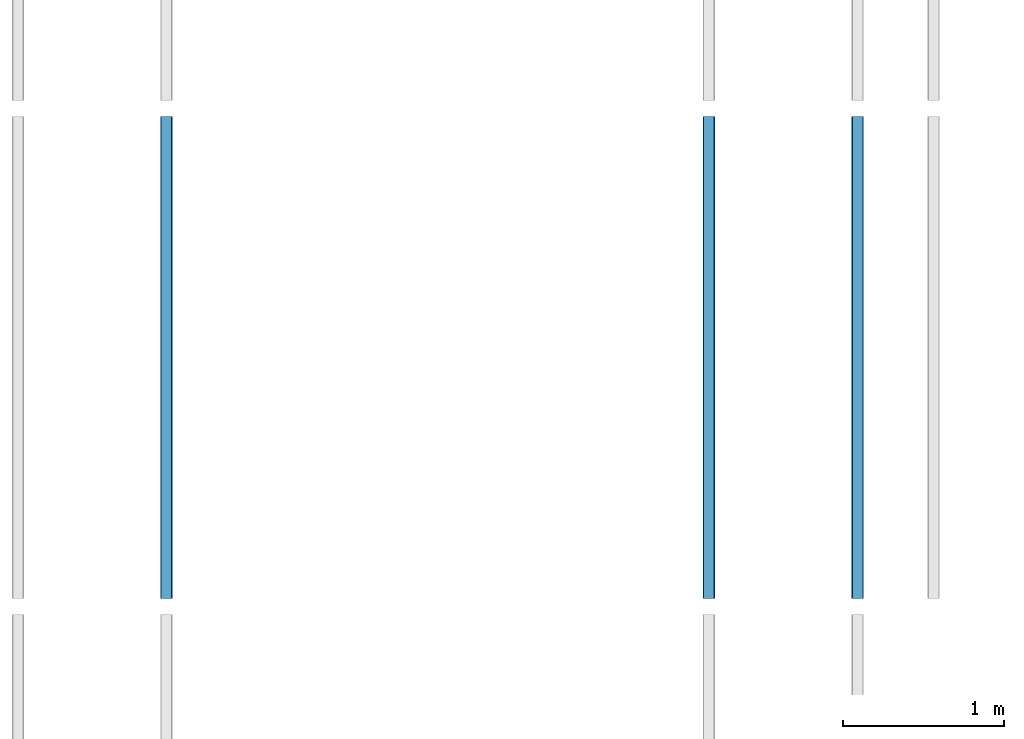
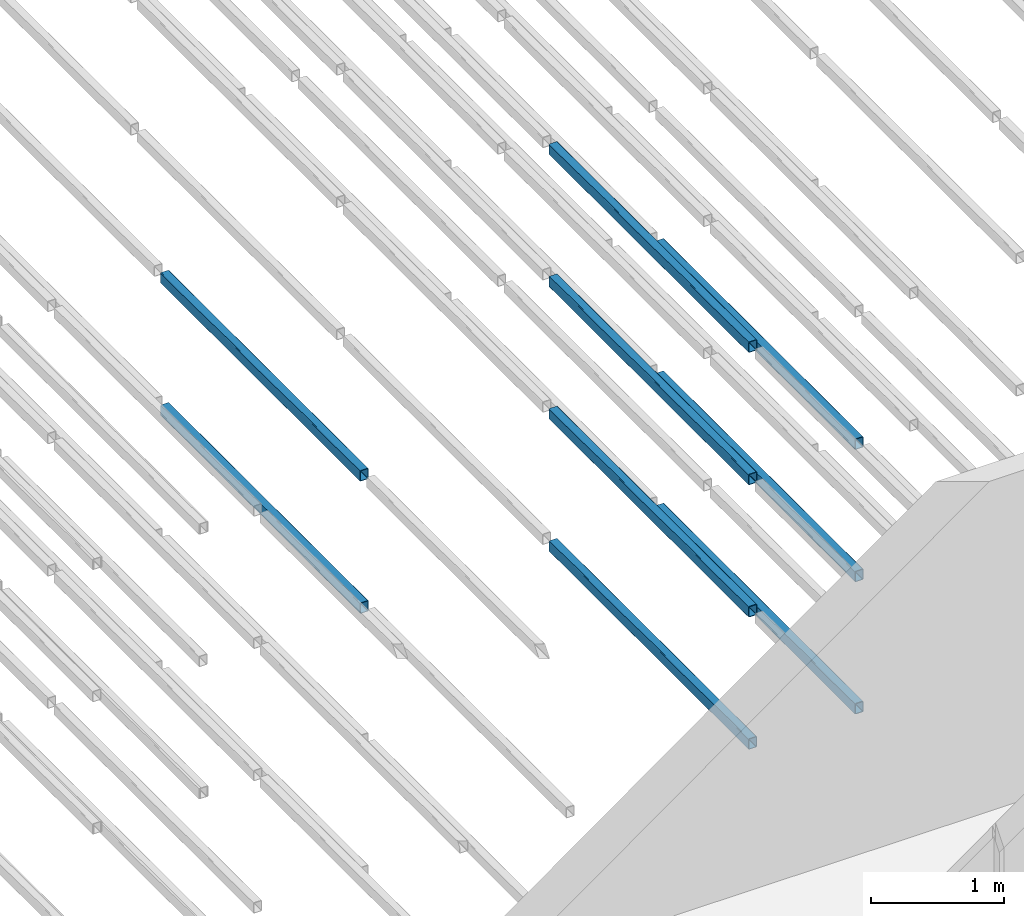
# One storey, part 22 of 290: 9 beams.
"""IFC2X3 building model written with IfcOpenShell, lengths in metres."""

import ifcopenshell
import ifcopenshell.guid

model = None  # the IFC model being written
_history = None  # IfcOwnerHistory: only IFC2X3 demands one
_inside = {}  # id of a spatial element -> (the spatial element, [elements in it])
_under = {}  # id of a project, library or spatial element -> (it, [spatial elements below it])
_declared = {}  # id of a project -> (the project, [libraries it declares])
_typed = {}  # id of a type object -> (the type object, [elements of that type])
_made_of = {}  # id of a material, layer set ... -> (it, [elements and type objects made of it])


def new_model(schema):
    """Start an empty IFC model of exactly this schema.

    Asked for "IFC4X3", IfcOpenShell would pick the latest addendum, in which some entities
    have other attributes; the version numbers below select the first issue.
    IFC2X3 requires an IfcOwnerHistory on every rooted entity: one is made here for all.
    """
    global model, _history
    if schema == "IFC4X3":
        model = ifcopenshell.file(schema_version=(4, 3, 0, 0))
    else:
        model = ifcopenshell.file(schema=schema)
    _inside.clear()
    _under.clear()
    _declared.clear()
    _typed.clear()
    _made_of.clear()
    _history = None
    if model.schema == "IFC2X3":
        org = make("IfcOrganization", Name="unknown")
        user = make(
            "IfcPersonAndOrganization",
            ThePerson=make("IfcPerson", FamilyName="unknown"),
            TheOrganization=org,
        )
        app = make(
            "IfcApplication",
            ApplicationDeveloper=org,
            Version="unknown",
            ApplicationFullName="unknown",
            ApplicationIdentifier="unknown",
        )
        _history = make(
            "IfcOwnerHistory",
            OwningUser=user,
            OwningApplication=app,
            ChangeAction="ADDED",
            CreationDate=0,
        )
    return model


def make(cls, **values):
    """One entity of the class cls with the attributes given. An attribute that is None is left unset."""
    return model.create_entity(
        cls, **{name: value for name, value in values.items() if value is not None}
    )


def entity(cls, *values):
    """Any entity or typed value of the class cls, its attributes in the order of the schema. None: left unset."""
    e = model.create_entity(cls)
    for i, value in enumerate(values):
        if value is not None:
            e[i] = value
    return e


def rooted(cls, **values):
    """An entity with a GlobalId (a new one), such as an element, a storey or a relation."""
    return make(cls, GlobalId=ifcopenshell.guid.new(), OwnerHistory=_history, **values)


def si_unit(unit_type, name, prefix=None):
    """IfcSIUnit, for example si_unit("LENGTHUNIT", "METRE", prefix="MILLI")."""
    return make("IfcSIUnit", UnitType=unit_type, Prefix=prefix, Name=name)


def converted_unit(unit_type, name, factor, base, dimensions=None, offset=None):
    """IfcConversionBasedUnit, such as the inch: factor (a typed value) times the base unit."""
    return make(
        "IfcConversionBasedUnit"
        if offset is None
        else "IfcConversionBasedUnitWithOffset",
        ConversionOffset=offset,
        Dimensions=None
        if dimensions is None
        else entity("IfcDimensionalExponents", *dimensions),
        UnitType=unit_type,
        Name=name,
        ConversionFactor=make(
            "IfcMeasureWithUnit", ValueComponent=factor, UnitComponent=base
        ),
    )


def derived_unit(unit_type, elements):
    """IfcDerivedUnit: a product of units, each with its exponent."""
    return make(
        "IfcDerivedUnit",
        Elements=[
            make("IfcDerivedUnitElement", Unit=unit, Exponent=power)
            for unit, power in elements
        ],
        UnitType=unit_type,
    )


def assignment(units):
    """IfcUnitAssignment: the units of a project."""
    return None if units is None else make("IfcUnitAssignment", Units=units)


def point(xyz):
    """IfcCartesianPoint."""
    return None if xyz is None else make("IfcCartesianPoint", Coordinates=xyz)


def direction(xyz):
    """IfcDirection."""
    return None if xyz is None else make("IfcDirection", DirectionRatios=xyz)


def frame(location, z_axis=None, x_axis=None):
    """IfcAxis2Placement3D, a coordinate frame: its origin and axes. An axis left out is left unset."""
    return make(
        "IfcAxis2Placement3D",
        Location=point(location),
        Axis=direction(z_axis),
        RefDirection=direction(x_axis),
    )


def frame_2d(location, x_axis=None):
    """IfcAxis2Placement2D, a coordinate frame in the plane: its origin and x axis."""
    return make(
        "IfcAxis2Placement2D", Location=point(location), RefDirection=direction(x_axis)
    )


def origin():
    """The frame at (0, 0, 0) with its axes left unset."""
    return frame((0.0, 0.0, 0.0))


def place(relative_to, where):
    """IfcLocalPlacement: puts the frame where relative to a parent placement (None: the world)."""
    return make(
        "IfcLocalPlacement", PlacementRelTo=relative_to, RelativePlacement=where
    )


def context(
    kind, dimensions, precision=None, world=None, true_north=None, identifier=None
):
    """IfcGeometricRepresentationContext, for example the 3D "Model" context."""
    return make(
        "IfcGeometricRepresentationContext",
        ContextIdentifier=identifier,
        ContextType=kind,
        CoordinateSpaceDimension=dimensions,
        Precision=precision,
        WorldCoordinateSystem=world,
        TrueNorth=true_north,
    )


def subcontext(parent, identifier, kind, view, scale=None):
    """IfcGeometricRepresentationSubContext, for example "Body" below "Model"."""
    return make(
        "IfcGeometricRepresentationSubContext",
        ContextIdentifier=identifier,
        ContextType=kind,
        ParentContext=parent,
        TargetScale=scale,
        TargetView=view,
    )


def project(units=None, contexts=None):
    """IfcProject with its units and contexts."""
    return rooted(
        "IfcProject",
        Name="project",
        RepresentationContexts=contexts,
        UnitsInContext=assignment(units),
    )


def spatial(cls, under=None, at=None, **own):
    """A site, building, storey or space (cls), placed at a placement, below another one or the project."""
    s = rooted(cls, ObjectPlacement=at, **own)
    if under is not None:
        _under.setdefault(under.id(), (under, []))[1].append(s)
    return s


def polyline(points):
    """IfcPolyline through the points."""
    return make("IfcPolyline", Points=[point(p) for p in points])


def circle_curve(where, radius):
    """IfcCircle in the frame where."""
    return make("IfcCircle", Position=where, Radius=radius)


def parameter(value):
    """IfcParameterValue: where a trimmed curve begins or ends, as a parameter of its basis curve."""
    return model.create_entity("IfcParameterValue", value)


def trimmed(basis, trim1, trim2, sense, master):
    """IfcTrimmedCurve: the piece of a basis curve between two trims."""
    return make(
        "IfcTrimmedCurve",
        BasisCurve=basis,
        Trim1=trim1,
        Trim2=trim2,
        SenseAgreement=sense,
        MasterRepresentation=master,
    )


def segment(curve, same_sense, transition):
    """IfcCompositeCurveSegment."""
    return make(
        "IfcCompositeCurveSegment",
        Transition=transition,
        SameSense=same_sense,
        ParentCurve=curve,
    )


def composite_curve(segments, self_intersect=None):
    """IfcCompositeCurve: segments joined end to end."""
    return make("IfcCompositeCurve", Segments=segments, SelfIntersect=self_intersect)


def outline(outer, holes=None, kind="AREA"):
    """IfcArbitraryClosedProfileDef: a profile drawn as a closed curve; with holes, ...WithVoids."""
    if holes is None:
        return make("IfcArbitraryClosedProfileDef", ProfileType=kind, OuterCurve=outer)
    return make(
        "IfcArbitraryProfileDefWithVoids",
        ProfileType=kind,
        OuterCurve=outer,
        InnerCurves=holes,
    )


def extrude(swept, where, along, depth):
    """IfcExtrudedAreaSolid: the profile swept, set in the frame where, extruded along a direction by depth."""
    return make(
        "IfcExtrudedAreaSolid",
        SweptArea=swept,
        Position=where,
        ExtrudedDirection=direction(along),
        Depth=depth,
    )


def shape(context_of_items, identifier, shape_type, items):
    """IfcShapeRepresentation: the items that make up one representation, for example the "Body"."""
    return make(
        "IfcShapeRepresentation",
        ContextOfItems=context_of_items,
        RepresentationIdentifier=identifier,
        RepresentationType=shape_type,
        Items=items,
    )


def material(Name=None, Category=None):
    """IfcMaterial."""
    return make("IfcMaterial", Name=Name, Category=Category)


def made_of(thing, what):
    """Note that an element or type object is made of a material, layer set ...; save() writes the relation."""
    if what is not None:
        _made_of.setdefault(what.id(), (what, []))[1].append(thing)
    return thing


def type_object(cls, material=None, **own):
    """A type object (cls), such as IfcWallType, which elements share."""
    return made_of(rooted(cls, **own), material)


def element(
    cls,
    number,
    at=None,
    inside=None,
    cuts=None,
    type_object=None,
    material=None,
    context=None,
    identifier="Body",
    shape_type=None,
    held_by="IfcProductDefinitionShape",
    body=None,
    shapes=None,
    **own,
):
    """One element of the class cls, such as IfcWall. Its Tag is "e" and its number.

    at: its placement. inside: the storey or other place that contains it. cuts: it is an
    opening in that element (IfcRelVoidsElement). A single representation is given by context,
    identifier, shape_type and body (its items); several are given by shapes. held_by: the class
    of the entity that holds the representations. save() writes the other relations.
    """
    e = rooted(cls, Tag="e%d" % number, ObjectPlacement=at, **own)
    if body is not None:
        shapes = [shape(context, identifier, shape_type, body)]
    if shapes is not None:
        e.Representation = make(held_by, Representations=shapes)
    if inside is not None:
        _inside.setdefault(inside.id(), (inside, []))[1].append(e)
    if cuts is not None:
        rooted(
            "IfcRelVoidsElement", RelatingBuildingElement=cuts, RelatedOpeningElement=e
        )
    if type_object is not None:
        _typed.setdefault(type_object.id(), (type_object, []))[1].append(e)
    return made_of(e, material)


def aggregate(whole, parts):
    """IfcRelAggregates: a whole, such as a stair, and the parts it consists of."""
    return rooted("IfcRelAggregates", RelatingObject=whole, RelatedObjects=parts)


def save(model, path):
    """Write the relations noted so far, then the file.

    IfcRelAggregates (storeys below a building ...), IfcRelContainedInSpatialStructure (elements
    in a storey), IfcRelDefinesByType, IfcRelAssociatesMaterial and IfcRelDeclares: one each for
    every whole, place, type object, material and project.
    """
    for whole, parts in _under.values():
        aggregate(whole, parts)
    for where, things in _inside.values():
        rooted(
            "IfcRelContainedInSpatialStructure",
            RelatedElements=things,
            RelatingStructure=where,
        )
    for kind, things in _typed.values():
        rooted("IfcRelDefinesByType", RelatedObjects=things, RelatingType=kind)
    for what, things in _made_of.values():
        rooted("IfcRelAssociatesMaterial", RelatedObjects=things, RelatingMaterial=what)
    for by, libraries in _declared.values():
        rooted("IfcRelDeclares", RelatingContext=by, RelatedDefinitions=libraries)
    model.write(path)


model = new_model("IFC2X3")

# Units and contexts
model_context = context("Model", 3, precision=1e-05, world=origin(), true_north=direction((6.12303176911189e-17, 1.0)))
body_context = subcontext(model_context, "Body", "Model", "MODEL_VIEW")
ifc_project = project(units=[si_unit("LENGTHUNIT", "METRE"), si_unit("AREAUNIT", "SQUARE_METRE"), si_unit("VOLUMEUNIT", "CUBIC_METRE"), converted_unit("PLANEANGLEUNIT", "DEGREE", entity("IfcRatioMeasure", 0.0174532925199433), si_unit("PLANEANGLEUNIT", "RADIAN"), dimensions=[0, 0, 0, 0, 0, 0, 0]), si_unit("MASSUNIT", "GRAM", prefix="KILO"), derived_unit("MASSDENSITYUNIT", [(si_unit("MASSUNIT", "GRAM", prefix="KILO"), 1), (si_unit("LENGTHUNIT", "METRE"), -3)]), derived_unit("MOMENTOFINERTIAUNIT", [(si_unit("LENGTHUNIT", "METRE"), 4)]), si_unit("TIMEUNIT", "SECOND"), si_unit("FREQUENCYUNIT", "HERTZ"), si_unit("THERMODYNAMICTEMPERATUREUNIT", "DEGREE_CELSIUS"), derived_unit("THERMALTRANSMITTANCEUNIT", [(si_unit("MASSUNIT", "GRAM", prefix="KILO"), 1), (si_unit("THERMODYNAMICTEMPERATUREUNIT", "KELVIN"), -1), (si_unit("TIMEUNIT", "SECOND"), -3)]), derived_unit("VOLUMETRICFLOWRATEUNIT", [(si_unit("LENGTHUNIT", "METRE"), 3), (si_unit("TIMEUNIT", "SECOND"), -1)]), si_unit("ELECTRICCURRENTUNIT", "AMPERE"), si_unit("ELECTRICVOLTAGEUNIT", "VOLT"), si_unit("POWERUNIT", "WATT"), si_unit("FORCEUNIT", "NEWTON", prefix="KILO"), si_unit("ILLUMINANCEUNIT", "LUX"), si_unit("LUMINOUSFLUXUNIT", "LUMEN"), si_unit("LUMINOUSINTENSITYUNIT", "CANDELA"), derived_unit("USERDEFINED", [(si_unit("MASSUNIT", "GRAM", prefix="KILO"), -1), (si_unit("LENGTHUNIT", "METRE"), -2), (si_unit("TIMEUNIT", "SECOND"), 3), (si_unit("LUMINOUSFLUXUNIT", "LUMEN"), 1)]), derived_unit("LINEARVELOCITYUNIT", [(si_unit("LENGTHUNIT", "METRE"), 1), (si_unit("TIMEUNIT", "SECOND"), -1)]), si_unit("PRESSUREUNIT", "PASCAL"), derived_unit("USERDEFINED", [(si_unit("LENGTHUNIT", "METRE"), -2), (si_unit("MASSUNIT", "GRAM", prefix="KILO"), 1), (si_unit("TIMEUNIT", "SECOND"), -2)]), derived_unit("LINEARFORCEUNIT", [(si_unit("MASSUNIT", "GRAM", prefix="KILO"), 1), (si_unit("LENGTHUNIT", "METRE"), 1), (si_unit("TIMEUNIT", "SECOND"), -2), (si_unit("LENGTHUNIT", "METRE"), -1)]), derived_unit("PLANARFORCEUNIT", [(si_unit("MASSUNIT", "GRAM", prefix="KILO"), 1), (si_unit("LENGTHUNIT", "METRE"), 1), (si_unit("TIMEUNIT", "SECOND"), -2), (si_unit("LENGTHUNIT", "METRE"), -2)])], contexts=[model_context])

# Site, building, storey
site_placement = place(None, origin())
site = spatial("IfcSite", under=ifc_project, at=site_placement, Name="Default", CompositionType="ELEMENT")
building_placement = place(site_placement, origin())
building = spatial("IfcBuilding", under=site, at=building_placement, CompositionType="ELEMENT")
storey_placement = place(building_placement, frame((0.0, 0.0, 4.0)))
storey = spatial("IfcBuildingStorey", under=building, at=storey_placement, Name="01_OG", CompositionType="ELEMENT", Elevation=4.0)

# Beams
ifc_material = material(Name="Metall - Baustahl S235 blau")
beam_type = type_object("IfcBeamType", Name="RHS Träger (EN 10219-2):RHS 100 x 75 x 5", PredefinedType="NOTDEFINED")
beam_1_placement = place(storey_placement, frame((-196.415111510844, 27.148088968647, -1.2), z_axis=(0.0, 0.0, 1.0), x_axis=(0.0, 1.0, 0.0)))
element("IfcBeam", 1, at=beam_1_placement, inside=storey, type_object=beam_type, material=ifc_material, Name="RHS Träger (EN 10219-2):RHS 100 x 75 x 5", ObjectType="RHS Träger (EN 10219-2):RHS 100 x 75 x 5", context=body_context, shape_type="SweptSolid", body=[
    extrude(outline(composite_curve([segment(trimmed(circle_curve(frame_2d((-0.0274999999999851, -0.0400000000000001), x_axis=(1.0, 0.0)), 0.01), [parameter(180.0)], [parameter(270.0)], True, "PARAMETER"), True, "CONTINUOUS"), segment(polyline([(-0.0274999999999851, -0.05), (0.0274999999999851, -0.05)]), True, "CONTINUOUS"), segment(trimmed(circle_curve(frame_2d((0.0274999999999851, -0.0400000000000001), x_axis=(1.0, 0.0)), 0.01), [parameter(270.0)], [parameter(5.08888749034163e-14)], True, "PARAMETER"), True, "CONTINUOUS"), segment(polyline([(0.0375000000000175, -0.0400000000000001), (0.0375000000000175, 0.0400000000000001)]), True, "CONTINUOUS"), segment(trimmed(circle_curve(frame_2d((0.0274999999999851, 0.0400000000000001), x_axis=(1.0, 0.0)), 0.01), [parameter(360.0)], [parameter(89.9999999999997)], True, "PARAMETER"), True, "CONTINUOUS"), segment(polyline([(0.0274999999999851, 0.05), (-0.0274999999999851, 0.05)]), True, "CONTINUOUS"), segment(trimmed(circle_curve(frame_2d((-0.0274999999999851, 0.0400000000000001), x_axis=(1.0, 0.0)), 0.01), [parameter(90.0000000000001)], [parameter(180.0)], True, "PARAMETER"), True, "CONTINUOUS"), segment(polyline([(-0.0374999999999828, 0.0400000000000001), (-0.0374999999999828, -0.0400000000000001)]), True, "CONTINUOUS")], self_intersect=False), holes=[composite_curve([segment(polyline([(0.0274999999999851, -0.0450000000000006), (-0.0274999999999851, -0.0450000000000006)]), True, "CONTINUOUS"), segment(trimmed(circle_curve(frame_2d((-0.0274999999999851, -0.0400000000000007), x_axis=(1.0, 0.0)), 0.005), [parameter(180.0)], [parameter(270.0)], True, "PARAMETER"), False, "CONTINUOUS"), segment(polyline([(-0.0325000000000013, -0.0400000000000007), (-0.0325000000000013, 0.039999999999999)]), True, "CONTINUOUS"), segment(trimmed(circle_curve(frame_2d((-0.0274999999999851, 0.039999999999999), x_axis=(1.0, 0.0)), 0.005), [parameter(90.0000000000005)], [parameter(180.0)], True, "PARAMETER"), False, "CONTINUOUS"), segment(polyline([(-0.0274999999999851, 0.044999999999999), (0.0274999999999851, 0.044999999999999)]), True, "CONTINUOUS"), segment(trimmed(circle_curve(frame_2d((0.0274999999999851, 0.039999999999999), x_axis=(1.0, 0.0)), 0.005), [parameter(0.0)], [parameter(90.0000000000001)], True, "PARAMETER"), False, "CONTINUOUS"), segment(polyline([(0.0325000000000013, 0.039999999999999), (0.0325000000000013, -0.0400000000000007)]), True, "CONTINUOUS"), segment(trimmed(circle_curve(frame_2d((0.0274999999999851, -0.0400000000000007), x_axis=(1.0, 0.0)), 0.005), [parameter(270.0)], [parameter(4.07110999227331e-13)], True, "PARAMETER"), False, "CONTINUOUS")], self_intersect=False)]), frame((9.99999999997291e-05, 0.0375000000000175, -0.0500000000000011), z_axis=(1.0, 0.0, 0.0), x_axis=(0.0, -1.0, 0.0)), (0.0, 0.0, 1.0), 2.9998),
])
beam_2_placement = place(storey_placement, frame((-196.415111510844, 27.148088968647, 0.0150000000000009), z_axis=(0.0, 0.0, 1.0), x_axis=(0.0, 1.0, 0.0)))
element("IfcBeam", 2, at=beam_2_placement, inside=storey, type_object=beam_type, material=ifc_material, Name="RHS Träger (EN 10219-2):RHS 100 x 75 x 5", ObjectType="RHS Träger (EN 10219-2):RHS 100 x 75 x 5", context=body_context, shape_type="SweptSolid", body=[
    extrude(outline(composite_curve([segment(trimmed(circle_curve(frame_2d((-0.0274999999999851, -0.0400000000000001), x_axis=(1.0, 0.0)), 0.01), [parameter(180.0)], [parameter(270.0)], True, "PARAMETER"), True, "CONTINUOUS"), segment(polyline([(-0.0274999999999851, -0.05), (0.0274999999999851, -0.05)]), True, "CONTINUOUS"), segment(trimmed(circle_curve(frame_2d((0.0274999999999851, -0.0400000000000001), x_axis=(1.0, 0.0)), 0.01), [parameter(270.0)], [parameter(5.08888749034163e-14)], True, "PARAMETER"), True, "CONTINUOUS"), segment(polyline([(0.0375000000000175, -0.0400000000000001), (0.0375000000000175, 0.0400000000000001)]), True, "CONTINUOUS"), segment(trimmed(circle_curve(frame_2d((0.0274999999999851, 0.0400000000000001), x_axis=(1.0, 0.0)), 0.01), [parameter(360.0)], [parameter(89.9999999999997)], True, "PARAMETER"), True, "CONTINUOUS"), segment(polyline([(0.0274999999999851, 0.05), (-0.0274999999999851, 0.05)]), True, "CONTINUOUS"), segment(trimmed(circle_curve(frame_2d((-0.0274999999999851, 0.0400000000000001), x_axis=(1.0, 0.0)), 0.01), [parameter(90.0000000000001)], [parameter(180.0)], True, "PARAMETER"), True, "CONTINUOUS"), segment(polyline([(-0.0374999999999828, 0.0400000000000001), (-0.0374999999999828, -0.0400000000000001)]), True, "CONTINUOUS")], self_intersect=False), holes=[composite_curve([segment(polyline([(0.0274999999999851, -0.0450000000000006), (-0.0274999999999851, -0.0450000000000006)]), True, "CONTINUOUS"), segment(trimmed(circle_curve(frame_2d((-0.0274999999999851, -0.0400000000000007), x_axis=(1.0, 0.0)), 0.005), [parameter(180.0)], [parameter(270.0)], True, "PARAMETER"), False, "CONTINUOUS"), segment(polyline([(-0.0325000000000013, -0.0400000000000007), (-0.0325000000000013, 0.039999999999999)]), True, "CONTINUOUS"), segment(trimmed(circle_curve(frame_2d((-0.0274999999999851, 0.039999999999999), x_axis=(1.0, 0.0)), 0.005), [parameter(90.0000000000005)], [parameter(180.0)], True, "PARAMETER"), False, "CONTINUOUS"), segment(polyline([(-0.0274999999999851, 0.044999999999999), (0.0274999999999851, 0.044999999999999)]), True, "CONTINUOUS"), segment(trimmed(circle_curve(frame_2d((0.0274999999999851, 0.039999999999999), x_axis=(1.0, 0.0)), 0.005), [parameter(0.0)], [parameter(90.0000000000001)], True, "PARAMETER"), False, "CONTINUOUS"), segment(polyline([(0.0325000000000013, 0.039999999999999), (0.0325000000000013, -0.0400000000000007)]), True, "CONTINUOUS"), segment(trimmed(circle_curve(frame_2d((0.0274999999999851, -0.0400000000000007), x_axis=(1.0, 0.0)), 0.005), [parameter(270.0)], [parameter(4.07110999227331e-13)], True, "PARAMETER"), False, "CONTINUOUS")], self_intersect=False)]), frame((9.99999999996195e-05, 0.0375000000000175, -0.0500000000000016), z_axis=(1.0, 0.0, 0.0), x_axis=(0.0, -1.0, 0.0)), (0.0, 0.0, 1.0), 2.9998),
])
beam_3_placement = place(storey_placement, frame((-196.415111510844, 27.148088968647, 1.23), z_axis=(0.0, 0.0, 1.0), x_axis=(0.0, 1.0, 0.0)))
element("IfcBeam", 3, at=beam_3_placement, inside=storey, type_object=beam_type, material=ifc_material, Name="RHS Träger (EN 10219-2):RHS 100 x 75 x 5", ObjectType="RHS Träger (EN 10219-2):RHS 100 x 75 x 5", context=body_context, shape_type="SweptSolid", body=[
    extrude(outline(composite_curve([segment(trimmed(circle_curve(frame_2d((-0.0274999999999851, -0.0399999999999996), x_axis=(1.0, 0.0)), 0.01), [parameter(180.0)], [parameter(270.0)], True, "PARAMETER"), True, "CONTINUOUS"), segment(polyline([(-0.0274999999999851, -0.0499999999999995), (0.0274999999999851, -0.0499999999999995)]), True, "CONTINUOUS"), segment(trimmed(circle_curve(frame_2d((0.0274999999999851, -0.0399999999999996), x_axis=(1.0, 0.0)), 0.01), [parameter(270.0)], [parameter(5.08888749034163e-14)], True, "PARAMETER"), True, "CONTINUOUS"), segment(polyline([(0.0375000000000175, -0.0399999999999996), (0.0375000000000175, 0.0399999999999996)]), True, "CONTINUOUS"), segment(trimmed(circle_curve(frame_2d((0.0274999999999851, 0.0399999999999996), x_axis=(1.0, 0.0)), 0.01), [parameter(360.0)], [parameter(89.9999999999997)], True, "PARAMETER"), True, "CONTINUOUS"), segment(polyline([(0.0274999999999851, 0.0500000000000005), (-0.0274999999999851, 0.0500000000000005)]), True, "CONTINUOUS"), segment(trimmed(circle_curve(frame_2d((-0.0274999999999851, 0.0399999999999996), x_axis=(1.0, 0.0)), 0.01), [parameter(90.0000000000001)], [parameter(180.0)], True, "PARAMETER"), True, "CONTINUOUS"), segment(polyline([(-0.0374999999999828, 0.0399999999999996), (-0.0374999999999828, -0.0399999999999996)]), True, "CONTINUOUS")], self_intersect=False), holes=[composite_curve([segment(polyline([(0.0274999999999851, -0.0450000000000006), (-0.0274999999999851, -0.0450000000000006)]), True, "CONTINUOUS"), segment(trimmed(circle_curve(frame_2d((-0.0274999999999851, -0.0400000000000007), x_axis=(1.0, 0.0)), 0.005), [parameter(180.0)], [parameter(270.0)], True, "PARAMETER"), False, "CONTINUOUS"), segment(polyline([(-0.0325000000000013, -0.0400000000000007), (-0.0325000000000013, 0.0399999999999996)]), True, "CONTINUOUS"), segment(trimmed(circle_curve(frame_2d((-0.0274999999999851, 0.0399999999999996), x_axis=(1.0, 0.0)), 0.005), [parameter(90.0000000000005)], [parameter(180.0)], True, "PARAMETER"), False, "CONTINUOUS"), segment(polyline([(-0.0274999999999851, 0.0449999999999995), (0.0274999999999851, 0.0449999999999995)]), True, "CONTINUOUS"), segment(trimmed(circle_curve(frame_2d((0.0274999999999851, 0.0399999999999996), x_axis=(1.0, 0.0)), 0.005), [parameter(0.0)], [parameter(90.0000000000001)], True, "PARAMETER"), False, "CONTINUOUS"), segment(polyline([(0.0325000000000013, 0.0399999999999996), (0.0325000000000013, -0.0400000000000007)]), True, "CONTINUOUS"), segment(trimmed(circle_curve(frame_2d((0.0274999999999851, -0.0400000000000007), x_axis=(1.0, 0.0)), 0.005), [parameter(270.0)], [parameter(4.07110999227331e-13)], True, "PARAMETER"), False, "CONTINUOUS")], self_intersect=False)]), frame((9.99999999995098e-05, 0.0375000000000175, -0.0500000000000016), z_axis=(1.0, 0.0, 0.0), x_axis=(0.0, -1.0, 0.0)), (0.0, 0.0, 1.0), 2.9998),
])
beam_4_placement = place(storey_placement, frame((-196.415111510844, 27.148088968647, 2.445), z_axis=(0.0, 0.0, 1.0), x_axis=(0.0, 1.0, 0.0)))
element("IfcBeam", 4, at=beam_4_placement, inside=storey, type_object=beam_type, material=ifc_material, Name="RHS Träger (EN 10219-2):RHS 100 x 75 x 5", ObjectType="RHS Träger (EN 10219-2):RHS 100 x 75 x 5", context=body_context, shape_type="SweptSolid", body=[
    extrude(outline(composite_curve([segment(trimmed(circle_curve(frame_2d((-0.0274999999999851, -0.0399999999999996), x_axis=(1.0, 0.0)), 0.01), [parameter(180.0)], [parameter(270.0)], True, "PARAMETER"), True, "CONTINUOUS"), segment(polyline([(-0.0274999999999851, -0.0499999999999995), (0.0274999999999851, -0.0499999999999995)]), True, "CONTINUOUS"), segment(trimmed(circle_curve(frame_2d((0.0274999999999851, -0.0399999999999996), x_axis=(1.0, 0.0)), 0.01), [parameter(270.0)], [parameter(5.08888749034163e-14)], True, "PARAMETER"), True, "CONTINUOUS"), segment(polyline([(0.0375000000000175, -0.0399999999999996), (0.0375000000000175, 0.0399999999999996)]), True, "CONTINUOUS"), segment(trimmed(circle_curve(frame_2d((0.0274999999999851, 0.0399999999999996), x_axis=(1.0, 0.0)), 0.01), [parameter(360.0)], [parameter(89.9999999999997)], True, "PARAMETER"), True, "CONTINUOUS"), segment(polyline([(0.0274999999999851, 0.0500000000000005), (-0.0274999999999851, 0.0500000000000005)]), True, "CONTINUOUS"), segment(trimmed(circle_curve(frame_2d((-0.0274999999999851, 0.0399999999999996), x_axis=(1.0, 0.0)), 0.01), [parameter(90.0000000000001)], [parameter(180.0)], True, "PARAMETER"), True, "CONTINUOUS"), segment(polyline([(-0.0374999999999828, 0.0399999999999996), (-0.0374999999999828, -0.0399999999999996)]), True, "CONTINUOUS")], self_intersect=False), holes=[composite_curve([segment(polyline([(0.0274999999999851, -0.0450000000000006), (-0.0274999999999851, -0.0450000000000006)]), True, "CONTINUOUS"), segment(trimmed(circle_curve(frame_2d((-0.0274999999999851, -0.0400000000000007), x_axis=(1.0, 0.0)), 0.005), [parameter(180.0)], [parameter(270.0)], True, "PARAMETER"), False, "CONTINUOUS"), segment(polyline([(-0.0325000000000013, -0.0400000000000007), (-0.0325000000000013, 0.0399999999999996)]), True, "CONTINUOUS"), segment(trimmed(circle_curve(frame_2d((-0.0274999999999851, 0.0399999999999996), x_axis=(1.0, 0.0)), 0.005), [parameter(90.0000000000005)], [parameter(180.0)], True, "PARAMETER"), False, "CONTINUOUS"), segment(polyline([(-0.0274999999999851, 0.0449999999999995), (0.0274999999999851, 0.0449999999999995)]), True, "CONTINUOUS"), segment(trimmed(circle_curve(frame_2d((0.0274999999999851, 0.0399999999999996), x_axis=(1.0, 0.0)), 0.005), [parameter(0.0)], [parameter(90.0000000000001)], True, "PARAMETER"), False, "CONTINUOUS"), segment(polyline([(0.0325000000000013, 0.0399999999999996), (0.0325000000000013, -0.0400000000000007)]), True, "CONTINUOUS"), segment(trimmed(circle_curve(frame_2d((0.0274999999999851, -0.0400000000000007), x_axis=(1.0, 0.0)), 0.005), [parameter(270.0)], [parameter(4.07110999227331e-13)], True, "PARAMETER"), False, "CONTINUOUS")], self_intersect=False)]), frame((9.99999999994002e-05, 0.0375000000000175, -0.0500000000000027), z_axis=(1.0, 0.0, 0.0), x_axis=(0.0, -1.0, 0.0)), (0.0, 0.0, 1.0), 2.9998),
])
beam_5_placement = place(storey_placement, frame((-195.565111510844, 27.148088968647, -1.2), z_axis=(0.0, 0.0, 1.0), x_axis=(0.0, 1.0, 0.0)))
element("IfcBeam", 5, at=beam_5_placement, inside=storey, type_object=beam_type, material=ifc_material, Name="RHS Träger (EN 10219-2):RHS 100 x 75 x 5", ObjectType="RHS Träger (EN 10219-2):RHS 100 x 75 x 5", context=body_context, shape_type="SweptSolid", body=[
    extrude(outline(composite_curve([segment(polyline([(-0.0400000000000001, -0.0374999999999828), (0.0400000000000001, -0.0374999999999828)]), True, "CONTINUOUS"), segment(trimmed(circle_curve(frame_2d((0.0400000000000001, -0.0274999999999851), x_axis=(0.0, 1.0)), 0.01), [parameter(180.0)], [parameter(270.0)], True, "PARAMETER"), True, "CONTINUOUS"), segment(polyline([(0.05, -0.0274999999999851), (0.05, 0.0274999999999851)]), True, "CONTINUOUS"), segment(trimmed(circle_curve(frame_2d((0.0400000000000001, 0.0274999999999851), x_axis=(0.0, 1.0)), 0.01), [parameter(270.0)], [parameter(4.07110999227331e-13)], True, "PARAMETER"), True, "CONTINUOUS"), segment(polyline([(0.0400000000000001, 0.0375000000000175), (-0.0400000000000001, 0.0375000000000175)]), True, "CONTINUOUS"), segment(trimmed(circle_curve(frame_2d((-0.0400000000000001, 0.0274999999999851), x_axis=(0.0, 1.0)), 0.01), [parameter(360.0)], [parameter(90.0000000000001)], True, "PARAMETER"), True, "CONTINUOUS"), segment(polyline([(-0.05, 0.0274999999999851), (-0.05, -0.0274999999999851)]), True, "CONTINUOUS"), segment(trimmed(circle_curve(frame_2d((-0.0400000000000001, -0.0274999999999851), x_axis=(0.0, 1.0)), 0.01), [parameter(90.0000000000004)], [parameter(180.0)], True, "PARAMETER"), True, "CONTINUOUS")], self_intersect=False), holes=[composite_curve([segment(trimmed(circle_curve(frame_2d((-0.0400000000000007, 0.0274999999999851), x_axis=(0.0, 1.0)), 0.005), [parameter(360.0)], [parameter(89.9999999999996)], True, "PARAMETER"), False, "CONTINUOUS"), segment(polyline([(-0.0400000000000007, 0.0325000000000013), (0.039999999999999, 0.0325000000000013)]), True, "CONTINUOUS"), segment(trimmed(circle_curve(frame_2d((0.039999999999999, 0.0274999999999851), x_axis=(0.0, 1.0)), 0.005), [parameter(270.0)], [parameter(0.0)], True, "PARAMETER"), False, "CONTINUOUS"), segment(polyline([(0.044999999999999, 0.0274999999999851), (0.044999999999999, -0.0274999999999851)]), True, "CONTINUOUS"), segment(trimmed(circle_curve(frame_2d((0.039999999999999, -0.0274999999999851), x_axis=(0.0, 1.0)), 0.005), [parameter(180.0)], [parameter(269.999999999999)], True, "PARAMETER"), False, "CONTINUOUS"), segment(polyline([(0.039999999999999, -0.0325000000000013), (-0.0400000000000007, -0.0325000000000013)]), True, "CONTINUOUS"), segment(trimmed(circle_curve(frame_2d((-0.0400000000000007, -0.0274999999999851), x_axis=(0.0, 1.0)), 0.005), [parameter(90.0000000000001)], [parameter(180.0)], True, "PARAMETER"), False, "CONTINUOUS"), segment(polyline([(-0.0450000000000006, -0.0274999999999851), (-0.0450000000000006, 0.0274999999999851)]), True, "CONTINUOUS")], self_intersect=False)]), frame((9.99999999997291e-05, -0.0375000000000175, -0.0500000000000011), z_axis=(1.0, 0.0, 0.0), x_axis=(0.0, 0.0, -1.0)), (0.0, 0.0, 1.0), 2.9998),
])
beam_6_placement = place(storey_placement, frame((-195.565111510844, 27.148088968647, 0.0150000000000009), z_axis=(0.0, 0.0, 1.0), x_axis=(0.0, 1.0, 0.0)))
element("IfcBeam", 6, at=beam_6_placement, inside=storey, type_object=beam_type, material=ifc_material, Name="RHS Träger (EN 10219-2):RHS 100 x 75 x 5", ObjectType="RHS Träger (EN 10219-2):RHS 100 x 75 x 5", context=body_context, shape_type="SweptSolid", body=[
    extrude(outline(composite_curve([segment(polyline([(-0.0400000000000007, -0.0374999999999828), (0.0399999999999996, -0.0374999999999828)]), True, "CONTINUOUS"), segment(trimmed(circle_curve(frame_2d((0.0399999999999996, -0.0274999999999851), x_axis=(0.0, 1.0)), 0.01), [parameter(180.0)], [parameter(270.0)], True, "PARAMETER"), True, "CONTINUOUS"), segment(polyline([(0.0499999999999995, -0.0274999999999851), (0.0499999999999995, 0.0274999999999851)]), True, "CONTINUOUS"), segment(trimmed(circle_curve(frame_2d((0.0399999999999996, 0.0274999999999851), x_axis=(0.0, 1.0)), 0.01), [parameter(270.0)], [parameter(4.07110999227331e-13)], True, "PARAMETER"), True, "CONTINUOUS"), segment(polyline([(0.0399999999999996, 0.0375000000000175), (-0.0400000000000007, 0.0375000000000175)]), True, "CONTINUOUS"), segment(trimmed(circle_curve(frame_2d((-0.0400000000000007, 0.0274999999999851), x_axis=(0.0, 1.0)), 0.01), [parameter(360.0)], [parameter(90.0000000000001)], True, "PARAMETER"), True, "CONTINUOUS"), segment(polyline([(-0.0500000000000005, 0.0274999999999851), (-0.0500000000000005, -0.0274999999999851)]), True, "CONTINUOUS"), segment(trimmed(circle_curve(frame_2d((-0.0400000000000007, -0.0274999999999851), x_axis=(0.0, 1.0)), 0.01), [parameter(90.0000000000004)], [parameter(180.0)], True, "PARAMETER"), True, "CONTINUOUS")], self_intersect=False), holes=[composite_curve([segment(trimmed(circle_curve(frame_2d((-0.0400000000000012, 0.0274999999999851), x_axis=(0.0, 1.0)), 0.005), [parameter(360.0)], [parameter(89.9999999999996)], True, "PARAMETER"), False, "CONTINUOUS"), segment(polyline([(-0.0400000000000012, 0.0325000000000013), (0.0399999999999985, 0.0325000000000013)]), True, "CONTINUOUS"), segment(trimmed(circle_curve(frame_2d((0.0399999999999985, 0.0274999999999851), x_axis=(0.0, 1.0)), 0.005), [parameter(270.0)], [parameter(0.0)], True, "PARAMETER"), False, "CONTINUOUS"), segment(polyline([(0.0449999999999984, 0.0274999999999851), (0.0449999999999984, -0.0274999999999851)]), True, "CONTINUOUS"), segment(trimmed(circle_curve(frame_2d((0.0399999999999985, -0.0274999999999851), x_axis=(0.0, 1.0)), 0.005), [parameter(180.0)], [parameter(269.999999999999)], True, "PARAMETER"), False, "CONTINUOUS"), segment(polyline([(0.0399999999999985, -0.0325000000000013), (-0.0400000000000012, -0.0325000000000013)]), True, "CONTINUOUS"), segment(trimmed(circle_curve(frame_2d((-0.0400000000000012, -0.0274999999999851), x_axis=(0.0, 1.0)), 0.005), [parameter(90.0000000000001)], [parameter(180.0)], True, "PARAMETER"), False, "CONTINUOUS"), segment(polyline([(-0.0450000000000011, -0.0274999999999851), (-0.0450000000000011, 0.0274999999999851)]), True, "CONTINUOUS")], self_intersect=False)]), frame((9.99999999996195e-05, -0.0375000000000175, -0.0500000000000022), z_axis=(1.0, 0.0, 0.0), x_axis=(0.0, 0.0, -1.0)), (0.0, 0.0, 1.0), 2.9998),
])
beam_7_placement = place(storey_placement, frame((-195.565111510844, 27.148088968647, 1.23), z_axis=(0.0, 0.0, 1.0), x_axis=(0.0, 1.0, 0.0)))
element("IfcBeam", 7, at=beam_7_placement, inside=storey, type_object=beam_type, material=ifc_material, Name="RHS Träger (EN 10219-2):RHS 100 x 75 x 5", ObjectType="RHS Träger (EN 10219-2):RHS 100 x 75 x 5", context=body_context, shape_type="SweptSolid", body=[
    extrude(outline(composite_curve([segment(polyline([(-0.0399999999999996, -0.0374999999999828), (0.0399999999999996, -0.0374999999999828)]), True, "CONTINUOUS"), segment(trimmed(circle_curve(frame_2d((0.0399999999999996, -0.0274999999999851), x_axis=(0.0, 1.0)), 0.01), [parameter(180.0)], [parameter(270.0)], True, "PARAMETER"), True, "CONTINUOUS"), segment(polyline([(0.0500000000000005, -0.0274999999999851), (0.0500000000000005, 0.0274999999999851)]), True, "CONTINUOUS"), segment(trimmed(circle_curve(frame_2d((0.0399999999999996, 0.0274999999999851), x_axis=(0.0, 1.0)), 0.01), [parameter(270.0)], [parameter(4.07110999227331e-13)], True, "PARAMETER"), True, "CONTINUOUS"), segment(polyline([(0.0399999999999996, 0.0375000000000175), (-0.0399999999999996, 0.0375000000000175)]), True, "CONTINUOUS"), segment(trimmed(circle_curve(frame_2d((-0.0399999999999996, 0.0274999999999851), x_axis=(0.0, 1.0)), 0.01), [parameter(360.0)], [parameter(90.0000000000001)], True, "PARAMETER"), True, "CONTINUOUS"), segment(polyline([(-0.0499999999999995, 0.0274999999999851), (-0.0499999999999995, -0.0274999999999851)]), True, "CONTINUOUS"), segment(trimmed(circle_curve(frame_2d((-0.0399999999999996, -0.0274999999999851), x_axis=(0.0, 1.0)), 0.01), [parameter(90.0000000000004)], [parameter(180.0)], True, "PARAMETER"), True, "CONTINUOUS")], self_intersect=False), holes=[composite_curve([segment(trimmed(circle_curve(frame_2d((-0.0400000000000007, 0.0274999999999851), x_axis=(0.0, 1.0)), 0.005), [parameter(360.0)], [parameter(89.9999999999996)], True, "PARAMETER"), False, "CONTINUOUS"), segment(polyline([(-0.0400000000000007, 0.0325000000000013), (0.0399999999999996, 0.0325000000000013)]), True, "CONTINUOUS"), segment(trimmed(circle_curve(frame_2d((0.0399999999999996, 0.0274999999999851), x_axis=(0.0, 1.0)), 0.005), [parameter(270.0)], [parameter(0.0)], True, "PARAMETER"), False, "CONTINUOUS"), segment(polyline([(0.0449999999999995, 0.0274999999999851), (0.0449999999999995, -0.0274999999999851)]), True, "CONTINUOUS"), segment(trimmed(circle_curve(frame_2d((0.0399999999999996, -0.0274999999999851), x_axis=(0.0, 1.0)), 0.005), [parameter(180.0)], [parameter(269.999999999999)], True, "PARAMETER"), False, "CONTINUOUS"), segment(polyline([(0.0399999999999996, -0.0325000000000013), (-0.0400000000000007, -0.0325000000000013)]), True, "CONTINUOUS"), segment(trimmed(circle_curve(frame_2d((-0.0400000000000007, -0.0274999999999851), x_axis=(0.0, 1.0)), 0.005), [parameter(90.0000000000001)], [parameter(180.0)], True, "PARAMETER"), False, "CONTINUOUS"), segment(polyline([(-0.0450000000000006, -0.0274999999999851), (-0.0450000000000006, 0.0274999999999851)]), True, "CONTINUOUS")], self_intersect=False)]), frame((9.99999999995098e-05, -0.0375000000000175, -0.0500000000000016), z_axis=(1.0, 0.0, 0.0), x_axis=(0.0, 0.0, -1.0)), (0.0, 0.0, 1.0), 2.9998),
])
beam_8_placement = place(storey_placement, frame((-199.865111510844, 27.148088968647, 1.23), z_axis=(0.0, 0.0, 1.0), x_axis=(0.0, 1.0, 0.0)))
element("IfcBeam", 8, at=beam_8_placement, inside=storey, type_object=beam_type, material=ifc_material, Name="RHS Träger (EN 10219-2):RHS 100 x 75 x 5", ObjectType="RHS Träger (EN 10219-2):RHS 100 x 75 x 5", context=body_context, shape_type="SweptSolid", body=[
    extrude(outline(composite_curve([segment(polyline([(-0.0399999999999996, -0.0374999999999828), (0.0399999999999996, -0.0374999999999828)]), True, "CONTINUOUS"), segment(trimmed(circle_curve(frame_2d((0.0399999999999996, -0.0274999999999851), x_axis=(0.0, 1.0)), 0.01), [parameter(180.0)], [parameter(270.0)], True, "PARAMETER"), True, "CONTINUOUS"), segment(polyline([(0.0500000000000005, -0.0274999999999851), (0.0500000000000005, 0.0274999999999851)]), True, "CONTINUOUS"), segment(trimmed(circle_curve(frame_2d((0.0399999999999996, 0.0274999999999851), x_axis=(0.0, 1.0)), 0.01), [parameter(270.0)], [parameter(4.07110999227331e-13)], True, "PARAMETER"), True, "CONTINUOUS"), segment(polyline([(0.0399999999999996, 0.0375000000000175), (-0.0399999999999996, 0.0375000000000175)]), True, "CONTINUOUS"), segment(trimmed(circle_curve(frame_2d((-0.0399999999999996, 0.0274999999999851), x_axis=(0.0, 1.0)), 0.01), [parameter(360.0)], [parameter(90.0000000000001)], True, "PARAMETER"), True, "CONTINUOUS"), segment(polyline([(-0.0499999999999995, 0.0274999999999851), (-0.0499999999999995, -0.0274999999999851)]), True, "CONTINUOUS"), segment(trimmed(circle_curve(frame_2d((-0.0399999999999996, -0.0274999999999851), x_axis=(0.0, 1.0)), 0.01), [parameter(90.0000000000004)], [parameter(180.0)], True, "PARAMETER"), True, "CONTINUOUS")], self_intersect=False), holes=[composite_curve([segment(trimmed(circle_curve(frame_2d((-0.0400000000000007, 0.0274999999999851), x_axis=(0.0, 1.0)), 0.005), [parameter(360.0)], [parameter(89.9999999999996)], True, "PARAMETER"), False, "CONTINUOUS"), segment(polyline([(-0.0400000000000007, 0.0325000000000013), (0.0399999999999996, 0.0325000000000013)]), True, "CONTINUOUS"), segment(trimmed(circle_curve(frame_2d((0.0399999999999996, 0.0274999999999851), x_axis=(0.0, 1.0)), 0.005), [parameter(270.0)], [parameter(0.0)], True, "PARAMETER"), False, "CONTINUOUS"), segment(polyline([(0.0449999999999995, 0.0274999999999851), (0.0449999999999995, -0.0274999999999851)]), True, "CONTINUOUS"), segment(trimmed(circle_curve(frame_2d((0.0399999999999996, -0.0274999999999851), x_axis=(0.0, 1.0)), 0.005), [parameter(180.0)], [parameter(269.999999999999)], True, "PARAMETER"), False, "CONTINUOUS"), segment(polyline([(0.0399999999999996, -0.0325000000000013), (-0.0400000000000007, -0.0325000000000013)]), True, "CONTINUOUS"), segment(trimmed(circle_curve(frame_2d((-0.0400000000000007, -0.0274999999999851), x_axis=(0.0, 1.0)), 0.005), [parameter(90.0000000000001)], [parameter(180.0)], True, "PARAMETER"), False, "CONTINUOUS"), segment(polyline([(-0.0450000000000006, -0.0274999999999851), (-0.0450000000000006, 0.0274999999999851)]), True, "CONTINUOUS")], self_intersect=False)]), frame((9.99999999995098e-05, -0.0375000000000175, -0.0500000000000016), z_axis=(1.0, 0.0, 0.0), x_axis=(0.0, 0.0, -1.0)), (0.0, 0.0, 1.0), 2.9998),
])
beam_9_placement = place(storey_placement, frame((-199.865111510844, 27.148088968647, 2.445), z_axis=(0.0, 0.0, 1.0), x_axis=(0.0, 1.0, 0.0)))
element("IfcBeam", 9, at=beam_9_placement, inside=storey, type_object=beam_type, material=ifc_material, Name="RHS Träger (EN 10219-2):RHS 100 x 75 x 5", ObjectType="RHS Träger (EN 10219-2):RHS 100 x 75 x 5", context=body_context, shape_type="SweptSolid", body=[
    extrude(outline(composite_curve([segment(polyline([(-0.0399999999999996, -0.0374999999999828), (0.0399999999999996, -0.0374999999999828)]), True, "CONTINUOUS"), segment(trimmed(circle_curve(frame_2d((0.0399999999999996, -0.0274999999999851), x_axis=(0.0, 1.0)), 0.01), [parameter(180.0)], [parameter(270.0)], True, "PARAMETER"), True, "CONTINUOUS"), segment(polyline([(0.0500000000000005, -0.0274999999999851), (0.0500000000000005, 0.0274999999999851)]), True, "CONTINUOUS"), segment(trimmed(circle_curve(frame_2d((0.0399999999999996, 0.0274999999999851), x_axis=(0.0, 1.0)), 0.01), [parameter(270.0)], [parameter(4.07110999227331e-13)], True, "PARAMETER"), True, "CONTINUOUS"), segment(polyline([(0.0399999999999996, 0.0375000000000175), (-0.0399999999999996, 0.0375000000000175)]), True, "CONTINUOUS"), segment(trimmed(circle_curve(frame_2d((-0.0399999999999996, 0.0274999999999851), x_axis=(0.0, 1.0)), 0.01), [parameter(360.0)], [parameter(90.0000000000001)], True, "PARAMETER"), True, "CONTINUOUS"), segment(polyline([(-0.0499999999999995, 0.0274999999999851), (-0.0499999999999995, -0.0274999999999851)]), True, "CONTINUOUS"), segment(trimmed(circle_curve(frame_2d((-0.0399999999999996, -0.0274999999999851), x_axis=(0.0, 1.0)), 0.01), [parameter(90.0000000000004)], [parameter(180.0)], True, "PARAMETER"), True, "CONTINUOUS")], self_intersect=False), holes=[composite_curve([segment(trimmed(circle_curve(frame_2d((-0.0400000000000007, 0.0274999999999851), x_axis=(0.0, 1.0)), 0.005), [parameter(360.0)], [parameter(89.9999999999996)], True, "PARAMETER"), False, "CONTINUOUS"), segment(polyline([(-0.0400000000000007, 0.0325000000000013), (0.0399999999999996, 0.0325000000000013)]), True, "CONTINUOUS"), segment(trimmed(circle_curve(frame_2d((0.0399999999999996, 0.0274999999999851), x_axis=(0.0, 1.0)), 0.005), [parameter(270.0)], [parameter(0.0)], True, "PARAMETER"), False, "CONTINUOUS"), segment(polyline([(0.0449999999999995, 0.0274999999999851), (0.0449999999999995, -0.0274999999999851)]), True, "CONTINUOUS"), segment(trimmed(circle_curve(frame_2d((0.0399999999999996, -0.0274999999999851), x_axis=(0.0, 1.0)), 0.005), [parameter(180.0)], [parameter(269.999999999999)], True, "PARAMETER"), False, "CONTINUOUS"), segment(polyline([(0.0399999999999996, -0.0325000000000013), (-0.0400000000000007, -0.0325000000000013)]), True, "CONTINUOUS"), segment(trimmed(circle_curve(frame_2d((-0.0400000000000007, -0.0274999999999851), x_axis=(0.0, 1.0)), 0.005), [parameter(90.0000000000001)], [parameter(180.0)], True, "PARAMETER"), False, "CONTINUOUS"), segment(polyline([(-0.0450000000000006, -0.0274999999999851), (-0.0450000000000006, 0.0274999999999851)]), True, "CONTINUOUS")], self_intersect=False)]), frame((9.99999999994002e-05, -0.0375000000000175, -0.0500000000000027), z_axis=(1.0, 0.0, 0.0), x_axis=(0.0, 0.0, -1.0)), (0.0, 0.0, 1.0), 2.9998),
])

save(model, "model.ifc")
